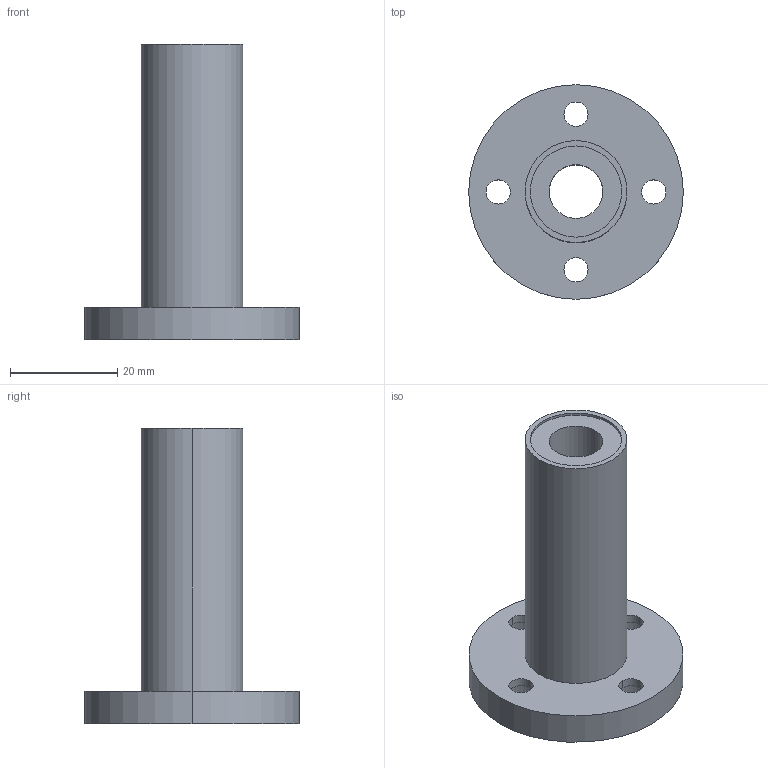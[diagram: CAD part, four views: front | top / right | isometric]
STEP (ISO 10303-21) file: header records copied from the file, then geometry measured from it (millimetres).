
FILE_DESCRIPTION((''),'2;1');
FILE_NAME('C:\Documents and Settings\ｿﾀﾀ蠑ｷ1\ｹﾙﾅﾁ ﾈｭｸ饅\ｺﾎﾇｰﾆﾄﾀﾏ\ﾁｦﾇｰ\LMF__LUU\LMF10LUU.stp','2005-06-15T09:41:22',('ｿﾀﾀ蠑ｷ1'),(''),'Autodesk Inventor 9','Autodesk Inventor 9','');
FILE_SCHEMA(('AUTOMOTIVE_DESIGN { 1 0 10303 214 1 1 1 1 }'));
Length unit declared in the file: millimetre
Products named in the file (1): LMF__
Bounding box: 40 x 40 x 55 mm (x, y, z)
Volume: 15946.3 mm3; surface area: 8194.5 mm2
Topology: 1 solids, 1 shells, 38 faces, 84 edges, 56 vertices
Faces by surface type: cylinder 28, plane 10
Entity records: 1127 total; most frequent: DIRECTION 218, CARTESIAN_POINT 179, ORIENTED_EDGE 168, AXIS2_PLACEMENT_3D 95, EDGE_CURVE 84, VERTEX_POINT 56, CIRCLE 56, EDGE_LOOP 56
